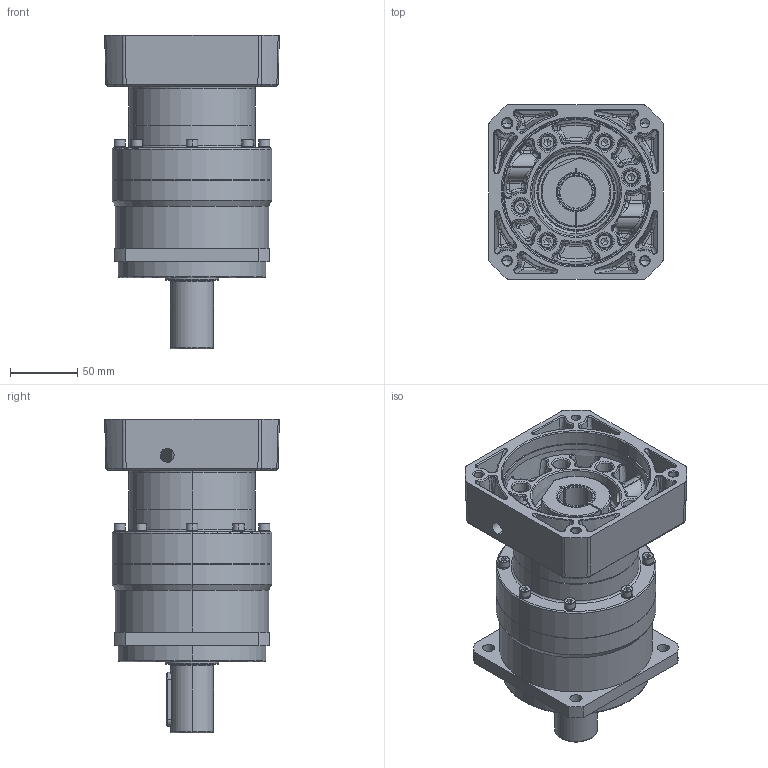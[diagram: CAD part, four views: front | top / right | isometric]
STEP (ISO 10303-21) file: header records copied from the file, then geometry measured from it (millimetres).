
FILE_DESCRIPTION (( 'STEP AP214' ), '1' );
FILE_NAME ('FB115M1-L2-24-110-145-M8-59.STEP', '2021-04-21T05:36:43', ( '微软用户' ), ( '微软中国' ), 'SwSTEP 2.0', 'SolidWorks 2014', '' );
FILE_SCHEMA (( 'AUTOMOTIVE_DESIGN' ));
Length unit declared in the file: millimetre
Products named in the file (35): VRB; M6-14; 蚐猾40x68x8; す瑩10X40; 输入轴锁紧环28x52x14; M5-12樓粟菜; FB115M1-L2-24-110-145-M8-59
Assembly tree (23 placements, depth 2):
  M6-14
  M6-14
  M6-14
  M6-14
  M6-14
Bounding box: 130 x 130 x 233.5 mm (x, y, z)
Volume: 1537410.1 mm3; surface area: 259005 mm2
Topology: 15 solids, 31 shells, 1627 faces, 3997 edges, 2472 vertices
Faces by surface type: plane 572, bspline 400, cylinder 326, cone 224, torus 85, sphere 20
Entity records: 54336 total; most frequent: CARTESIAN_POINT 25256, ORIENTED_EDGE 6345, DIRECTION 5037, EDGE_CURVE 3176, VERTEX_POINT 1976, AXIS2_PLACEMENT_3D 1879, EDGE_LOOP 1463, FACE_OUTER_BOUND 1316
